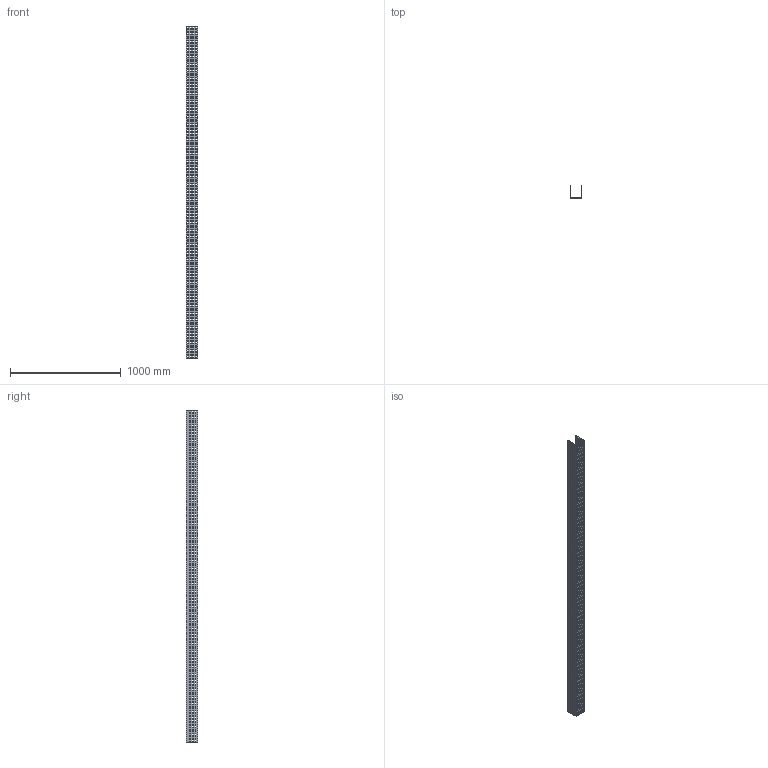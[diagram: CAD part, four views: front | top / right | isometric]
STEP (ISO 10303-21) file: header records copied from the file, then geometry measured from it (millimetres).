
FILE_DESCRIPTION (( 'STEP AP214' ), '1' );
FILE_NAME ('01F3D100.step', '2025-02-21T13:11:14', ( '' ), ( '' ), 'SwSTEP 2.0', 'SolidWorks 2023', '' );
FILE_SCHEMA (( 'AUTOMOTIVE_DESIGN' ));
Length unit declared in the file: millimetre
Products named in the file (1): 01F3D100
Bounding box: 104 x 104 x 3000 mm (x, y, z)
Volume: 2761500 mm3; surface area: 1762415 mm2
Topology: 1 solids, 1 shells, 2890 faces, 8664 edges, 5776 vertices
Faces by surface type: plane 2890
Entity records: 98231 total; most frequent: CARTESIAN_POINT 17331, ORIENTED_EDGE 17328, DIRECTION 14446, EDGE_CURVE 8664, VECTOR 8664, LINE 8664, VERTEX_POINT 5776, EDGE_LOOP 4330
